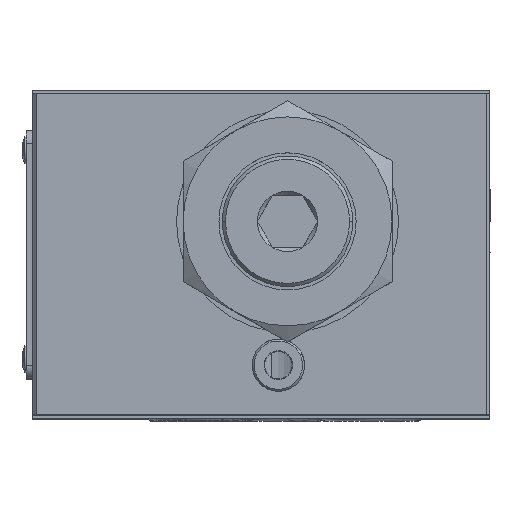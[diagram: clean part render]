
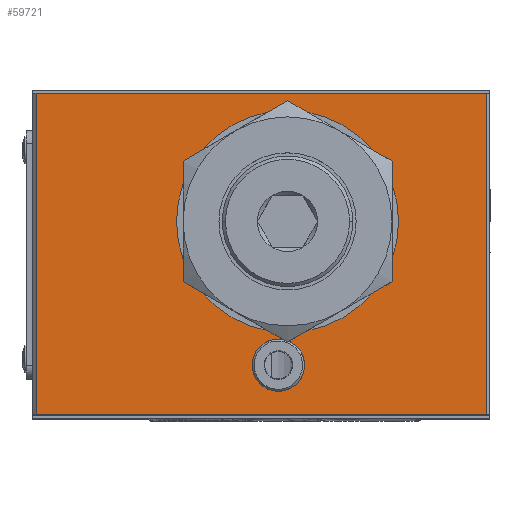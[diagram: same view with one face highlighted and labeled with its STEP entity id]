
A CAD part, top view. The second image highlights one B-rep face of the part: STEP entity #59721.
In plain terms, the highlighted planar face has unit normal (0, 0, 1).
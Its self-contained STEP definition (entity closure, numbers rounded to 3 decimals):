
#1161 = CARTESIAN_POINT ( 'NONE',  ( -34.5, -24.6, 62.5 ) ) ;
#2260 = ORIENTED_EDGE ( 'NONE', *, *, #42676, .F. ) ;
#2403 = CARTESIAN_POINT ( 'NONE',  ( 34.5, 24.6, 62.5 ) ) ;
#2703 = CARTESIAN_POINT ( 'NONE',  ( 34.5, 24.6, 62.5 ) ) ;
#3277 = VERTEX_POINT ( 'NONE', #61780 ) ;
#3412 = CARTESIAN_POINT ( 'NONE',  ( -35., -25.1, 62.5 ) ) ;
#4225 = DIRECTION ( 'NONE',  ( 1., 0., 0. ) ) ;
#5051 = LINE ( 'NONE', #32692, #34457 ) ;
#5970 = DIRECTION ( 'NONE',  ( -1., 0., 0. ) ) ;
#6793 = LINE ( 'NONE', #2703, #39953 ) ;
#7183 = VECTOR ( 'NONE', #39176, 1000. ) ;
#8313 = DIRECTION ( 'NONE',  ( 0., 0., 1. ) ) ;
#9487 = CARTESIAN_POINT ( 'NONE',  ( 6.6, -17., 62.5 ) ) ;
#10915 = LINE ( 'NONE', #48499, #7183 ) ;
#11621 = AXIS2_PLACEMENT_3D ( 'NONE', #16420, #45697, #26125 ) ;
#12613 = CIRCLE ( 'NONE', #57975, 17. ) ;
#13781 = ORIENTED_EDGE ( 'NONE', *, *, #62415, .F. ) ;
#13864 = FACE_BOUND ( 'NONE', #52307, .T. ) ;
#14315 = EDGE_CURVE ( 'NONE', #52536, #43972, #14776, .T. ) ;
#14776 = CIRCLE ( 'NONE', #18103, 17. ) ;
#16420 = CARTESIAN_POINT ( 'NONE',  ( 2.6, -17., 62.5 ) ) ;
#16564 = EDGE_CURVE ( 'NONE', #31946, #60550, #6793, .T. ) ;
#16627 = DIRECTION ( 'NONE',  ( 0., 1., 0. ) ) ;
#16686 = AXIS2_PLACEMENT_3D ( 'NONE', #3412, #62009, #4225 ) ;
#16874 = ORIENTED_EDGE ( 'NONE', *, *, #14315, .F. ) ;
#17850 = CARTESIAN_POINT ( 'NONE',  ( 21., 5., 62.5 ) ) ;
#18103 = AXIS2_PLACEMENT_3D ( 'NONE', #44692, #59473, #59271 ) ;
#19543 = VERTEX_POINT ( 'NONE', #9487 ) ;
#22719 = ORIENTED_EDGE ( 'NONE', *, *, #49894, .F. ) ;
#23097 = DIRECTION ( 'NONE',  ( 1., 0., 0. ) ) ;
#25154 = LINE ( 'NONE', #49195, #47075 ) ;
#25201 = FACE_OUTER_BOUND ( 'NONE', #30820, .T. ) ;
#26125 = DIRECTION ( 'NONE',  ( 1., 0., 0. ) ) ;
#26751 = FACE_BOUND ( 'NONE', #47088, .T. ) ;
#28442 = ORIENTED_EDGE ( 'NONE', *, *, #36081, .T. ) ;
#29288 = CIRCLE ( 'NONE', #11621, 4. ) ;
#30820 = EDGE_LOOP ( 'NONE', ( #22719, #35830, #13781, #28442 ) ) ;
#31285 = CARTESIAN_POINT ( 'NONE',  ( 34.5, -24.6, 62.5 ) ) ;
#31946 = VERTEX_POINT ( 'NONE', #31285 ) ;
#32692 = CARTESIAN_POINT ( 'NONE',  ( -35., 24.6, 62.5 ) ) ;
#33435 = DIRECTION ( 'NONE',  ( 1., 0., 0. ) ) ;
#34457 = VECTOR ( 'NONE', #46821, 1000. ) ;
#35830 = ORIENTED_EDGE ( 'NONE', *, *, #16564, .T. ) ;
#36081 = EDGE_CURVE ( 'NONE', #3277, #40052, #10915, .T. ) ;
#37102 = CARTESIAN_POINT ( 'NONE',  ( -13., 5., 62.5 ) ) ;
#39176 = DIRECTION ( 'NONE',  ( 0., -1., 0. ) ) ;
#39936 = ORIENTED_EDGE ( 'NONE', *, *, #41484, .F. ) ;
#39953 = VECTOR ( 'NONE', #16627, 1000. ) ;
#40052 = VERTEX_POINT ( 'NONE', #1161 ) ;
#41262 = CARTESIAN_POINT ( 'NONE',  ( -1.4, -17., 62.5 ) ) ;
#41484 = EDGE_CURVE ( 'NONE', #19543, #60075, #48949, .T. ) ;
#42676 = EDGE_CURVE ( 'NONE', #43972, #52536, #12613, .T. ) ;
#43972 = VERTEX_POINT ( 'NONE', #17850 ) ;
#44692 = CARTESIAN_POINT ( 'NONE',  ( 4., 5., 62.5 ) ) ;
#44711 = EDGE_CURVE ( 'NONE', #60075, #19543, #29288, .T. ) ;
#45697 = DIRECTION ( 'NONE',  ( 0., 0., 1. ) ) ;
#46821 = DIRECTION ( 'NONE',  ( 1., 0., 0. ) ) ;
#47075 = VECTOR ( 'NONE', #5970, 1000. ) ;
#47088 = EDGE_LOOP ( 'NONE', ( #39936, #59040 ) ) ;
#48499 = CARTESIAN_POINT ( 'NONE',  ( -34.5, -24.6, 62.5 ) ) ;
#48949 = CIRCLE ( 'NONE', #59559, 4. ) ;
#49195 = CARTESIAN_POINT ( 'NONE',  ( 35., -24.6, 62.5 ) ) ;
#49894 = EDGE_CURVE ( 'NONE', #31946, #40052, #25154, .T. ) ;
#52211 = CARTESIAN_POINT ( 'NONE',  ( 2.6, -17., 62.5 ) ) ;
#52307 = EDGE_LOOP ( 'NONE', ( #2260, #16874 ) ) ;
#52536 = VERTEX_POINT ( 'NONE', #37102 ) ;
#56761 = CARTESIAN_POINT ( 'NONE',  ( 4., 5., 62.5 ) ) ;
#56923 = PLANE ( 'NONE',  #16686 ) ;
#57975 = AXIS2_PLACEMENT_3D ( 'NONE', #56761, #8313, #23097 ) ;
#59040 = ORIENTED_EDGE ( 'NONE', *, *, #44711, .F. ) ;
#59271 = DIRECTION ( 'NONE',  ( 1., 0., 0. ) ) ;
#59473 = DIRECTION ( 'NONE',  ( 0., 0., 1. ) ) ;
#59559 = AXIS2_PLACEMENT_3D ( 'NONE', #52211, #61721, #33435 ) ;
#59721 = ADVANCED_FACE ( 'NONE', ( #25201, #26751, #13864 ), #56923, .T. ) ;
#60075 = VERTEX_POINT ( 'NONE', #41262 ) ;
#60550 = VERTEX_POINT ( 'NONE', #2403 ) ;
#61721 = DIRECTION ( 'NONE',  ( 0., 0., 1. ) ) ;
#61780 = CARTESIAN_POINT ( 'NONE',  ( -34.5, 24.6, 62.5 ) ) ;
#62009 = DIRECTION ( 'NONE',  ( 0., 0., 1. ) ) ;
#62415 = EDGE_CURVE ( 'NONE', #3277, #60550, #5051, .T. ) ;
